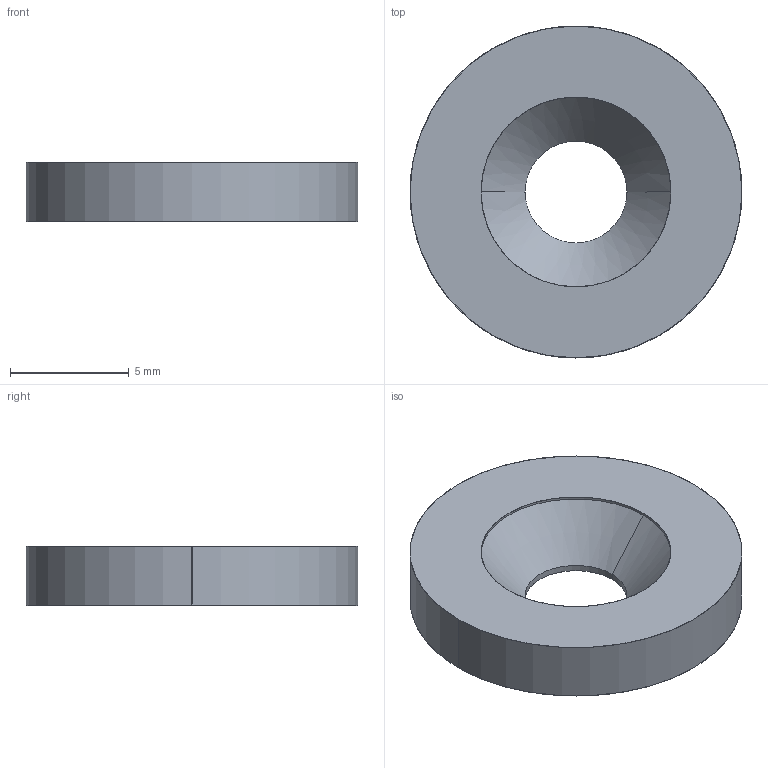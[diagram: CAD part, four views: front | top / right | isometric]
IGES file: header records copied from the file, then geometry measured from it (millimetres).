
Start section: SolidWorks IGES file using analytic representation for surfaces
Bounding box: 14 x 14 x 2.5 mm (x, y, z)
Surface area: 413.7 mm2 (no closed solid volume)
Topology: 0 solids, 0 shells, 10 faces, 160 edges, 160 vertices
Faces by surface type: revolution 8, bspline 2
